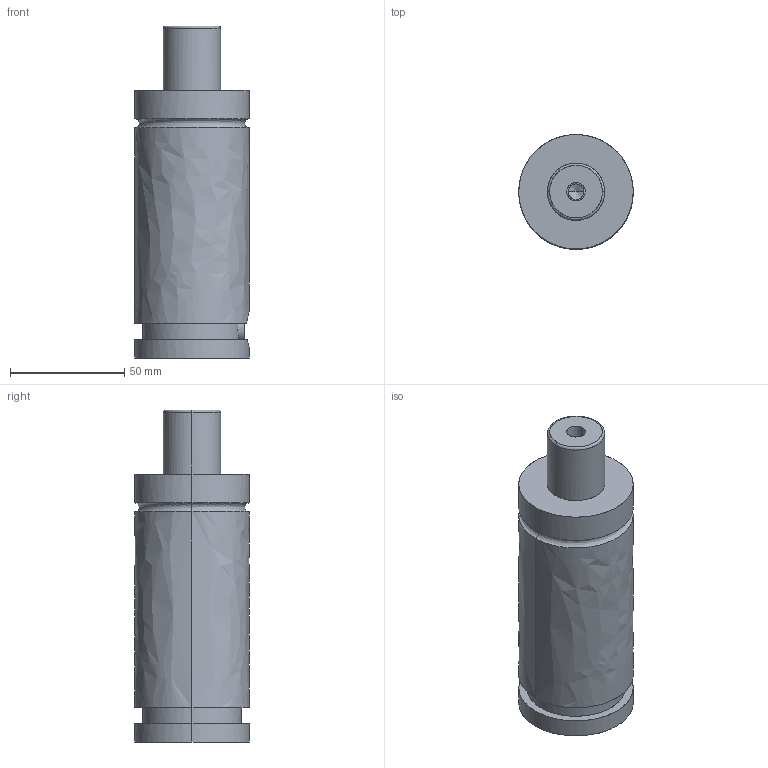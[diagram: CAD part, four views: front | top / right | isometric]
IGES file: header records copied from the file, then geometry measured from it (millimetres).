
Global section: file name: E:\UnigraphicsGraphicData\MISUMI_PRESS-PARTS\IGES\3d_gse50-25_03848_r00.igs; native system: NX V5.0; preprocessor: UGS NX IGES V5.0; author: MISUMI; date: 20110105.160759; units: millimetre
Bounding box: 50 x 50 x 145 mm (x, y, z)
Surface area: 27021.7 mm2 (no closed solid volume)
Topology: 0 solids, 0 shells, 57 faces, 453 edges, 451 vertices
Faces by surface type: bspline 57
